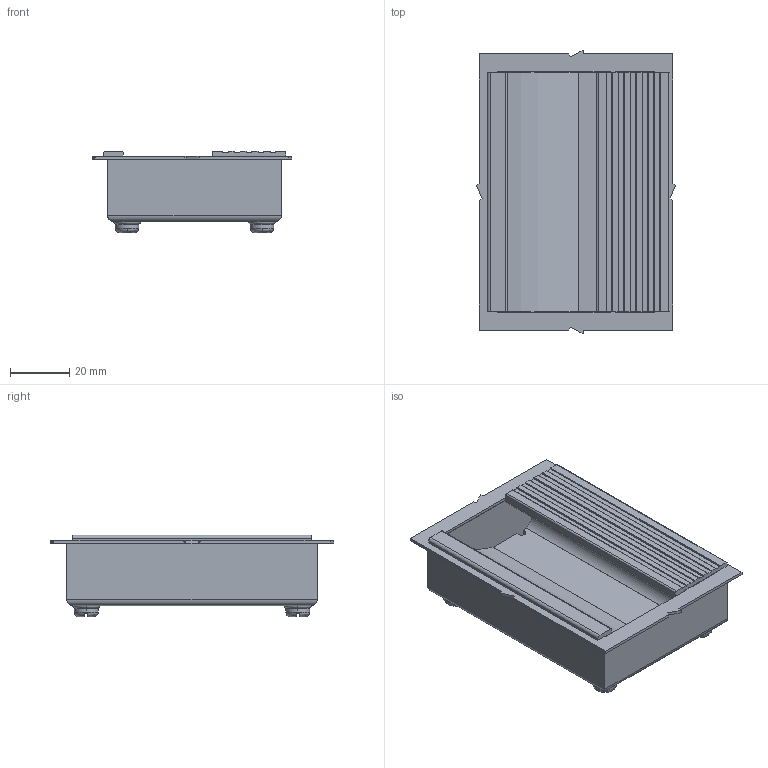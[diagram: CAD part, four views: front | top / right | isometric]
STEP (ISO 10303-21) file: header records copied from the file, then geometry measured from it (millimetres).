
FILE_DESCRIPTION (( 'STEP AP203' ), '1' );
FILE_NAME ('HP-747.STEP', '2015-11-18T07:39:14', ( '' ), ( '' ), 'SwSTEP 2.0', 'SolidWorks 2014', '' );
FILE_SCHEMA (( 'CONFIG_CONTROL_DESIGN' ));
Length unit declared in the file: millimetre
Products named in the file (5): 後蓋; 把手本體; 鈑金; 自攻螺絲; HP-747
Assembly tree (7 placements, depth 2):
  HP-747
    後蓋
    把手本體
    鈑金
    自攻螺絲  x4
Bounding box: 67 x 95.32 x 27.5 mm (x, y, z)
Volume: 35110.3 mm3; surface area: 46870.8 mm2
Topology: 7 solids, 7 shells, 375 faces, 962 edges, 606 vertices
Faces by surface type: plane 201, cylinder 102, bspline 32, torus 28, cone 12
Entity records: 9590 total; most frequent: CARTESIAN_POINT 2339, DIRECTION 1417, ORIENTED_EDGE 1408, EDGE_CURVE 704, AXIS2_PLACEMENT_3D 509, VERTEX_POINT 447, VECTOR 399, LINE 399
